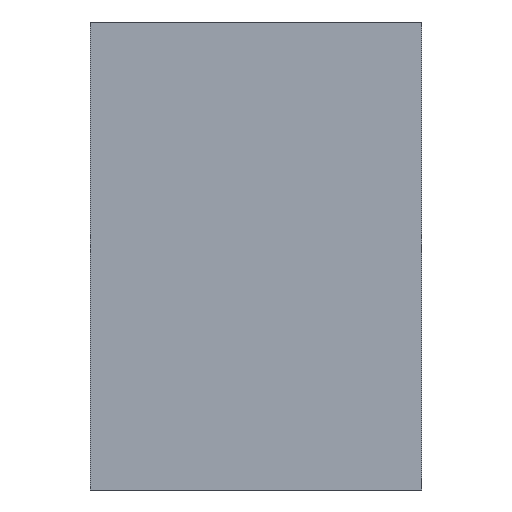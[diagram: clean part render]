
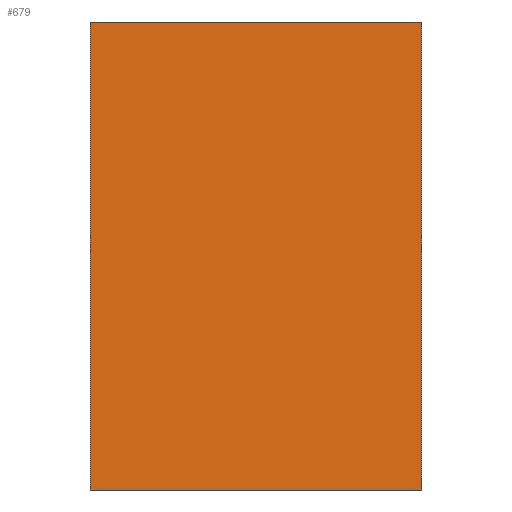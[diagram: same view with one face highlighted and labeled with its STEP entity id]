
A CAD part, left-side view. The second image highlights one B-rep face of the part: STEP entity #679.
In plain terms, the highlighted planar face has unit normal (-0.999, -0.052, 0).
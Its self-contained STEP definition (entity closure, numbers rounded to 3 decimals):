
#43 = CARTESIAN_POINT ( 'NONE',  ( -197., 113., 1992. ) ) ;
#67 = EDGE_CURVE ( 'NONE', #201, #306, #287, .T. ) ;
#92 = FACE_OUTER_BOUND ( 'NONE', #1515, .T. ) ;
#160 = VECTOR ( 'NONE', #1298, 1000. ) ;
#194 = ORIENTED_EDGE ( 'NONE', *, *, #725, .F. ) ;
#201 = VERTEX_POINT ( 'NONE', #442 ) ;
#214 = CARTESIAN_POINT ( 'NONE',  ( -197., 113., 2259. ) ) ;
#287 = LINE ( 'NONE', #43, #1006 ) ;
#306 = VERTEX_POINT ( 'NONE', #706 ) ;
#376 = VERTEX_POINT ( 'NONE', #1327 ) ;
#400 = ORIENTED_EDGE ( 'NONE', *, *, #1170, .F. ) ;
#442 = CARTESIAN_POINT ( 'NONE',  ( -196.581, 105., 1992. ) ) ;
#465 = CARTESIAN_POINT ( 'NONE',  ( -196.581, 105., 0. ) ) ;
#605 = VERTEX_POINT ( 'NONE', #1026 ) ;
#679 = ADVANCED_FACE ( 'NONE', ( #92 ), #1448, .F. ) ;
#703 = DIRECTION ( 'NONE',  ( 0., 0., 1. ) ) ;
#706 = CARTESIAN_POINT ( 'NONE',  ( -192.388, 25., 1992. ) ) ;
#707 = DIRECTION ( 'NONE',  ( -0.052, 0.999, 0. ) ) ;
#722 = LINE ( 'NONE', #465, #1443 ) ;
#725 = EDGE_CURVE ( 'NONE', #201, #376, #722, .T. ) ;
#805 = CARTESIAN_POINT ( 'NONE',  ( -192.388, 25., 2259. ) ) ;
#974 = EDGE_CURVE ( 'NONE', #306, #605, #1299, .T. ) ;
#1006 = VECTOR ( 'NONE', #1525, 1000. ) ;
#1026 = CARTESIAN_POINT ( 'NONE',  ( -192.388, 25., 2105. ) ) ;
#1170 = EDGE_CURVE ( 'NONE', #376, #605, #1173, .T. ) ;
#1173 = LINE ( 'NONE', #1280, #160 ) ;
#1206 = VECTOR ( 'NONE', #703, 1000. ) ;
#1280 = CARTESIAN_POINT ( 'NONE',  ( -196.581, 105., 2105. ) ) ;
#1298 = DIRECTION ( 'NONE',  ( 0.052, -0.999, 0. ) ) ;
#1299 = LINE ( 'NONE', #805, #1206 ) ;
#1306 = DIRECTION ( 'NONE',  ( 0., 0., 1. ) ) ;
#1327 = CARTESIAN_POINT ( 'NONE',  ( -196.581, 105., 2105. ) ) ;
#1440 = DIRECTION ( 'NONE',  ( 0.999, 0.052, 0. ) ) ;
#1443 = VECTOR ( 'NONE', #1306, 1000. ) ;
#1448 = PLANE ( 'NONE',  #1562 ) ;
#1515 = EDGE_LOOP ( 'NONE', ( #1516, #1602, #400, #194 ) ) ;
#1516 = ORIENTED_EDGE ( 'NONE', *, *, #67, .T. ) ;
#1525 = DIRECTION ( 'NONE',  ( 0.052, -0.999, 0. ) ) ;
#1562 = AXIS2_PLACEMENT_3D ( 'NONE', #214, #1440, #707 ) ;
#1602 = ORIENTED_EDGE ( 'NONE', *, *, #974, .T. ) ;
